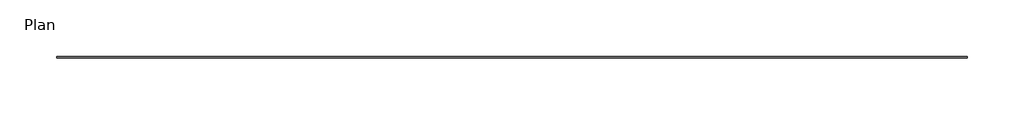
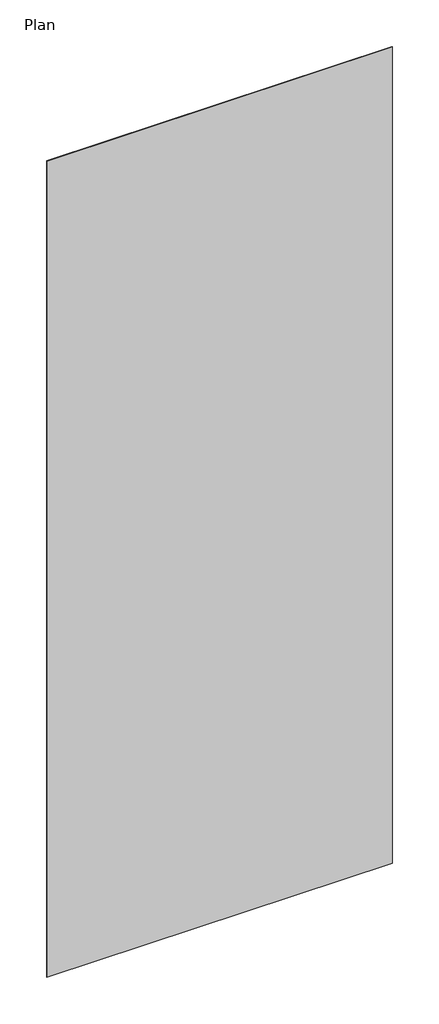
# One storey: 1 proxy.
"""IFC4 building model written with IfcOpenShell, lengths in millimetres."""

from ifc_helpers import new_model, si_unit, origin, place, context, project, spatial, transform, mapped, element, save
from components import generic_models_2f911258

model = new_model("IFC4")

# Units and contexts
model_context = context("Model", 3, world=origin())
ifc_project = project(units=[si_unit("LENGTHUNIT", "METRE", prefix="MILLI")], contexts=[model_context])

# Site, building, storey
site = spatial("IfcSite", under=ifc_project)
building = spatial("IfcBuilding", under=site)
storey = spatial("IfcBuildingStorey", under=building, Name="Plan", Elevation=0.0)

# Proxy
placement = place(None, origin())
generic_models_shape = generic_models_2f911258(model_context)
element("IfcBuildingElementProxy", 1, Name="AQUAPANEL showcase solid : AQUAPANEL showcase solid", ObjectType="AQUAPANEL showcase solid : AQUAPANEL showcase solid", at=placement, inside=storey, context=model_context, shape_type="MappedRepresentation", body=[
    mapped(generic_models_shape, transform((0.0, 0.0, 0.0), x_axis=(1.0, 0.0, 0.0), y_axis=(0.0, 1.0, 0.0), z_axis=(0.0, 0.0, 1.0))),
])

save(model, "model.ifc")
